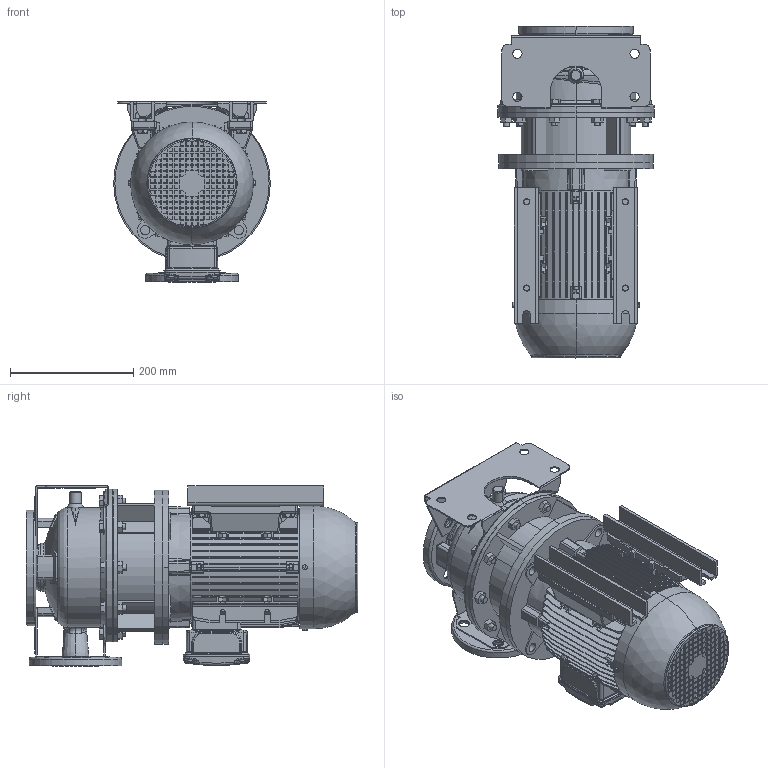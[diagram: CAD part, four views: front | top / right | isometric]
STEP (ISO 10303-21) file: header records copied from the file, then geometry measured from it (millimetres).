
FILE_DESCRIPTION (( 'STEP AP214' ), '1' );
FILE_NAME ('3LS 40-160_3.0_(100L)_W21.STEP', '2026-04-27T02:21:59', ( '' ), ( '' ), 'SwSTEP 2.0', 'SolidWorks 2024', '' );
FILE_SCHEMA (( 'AUTOMOTIVE_DESIGN' ));
Length unit declared in the file: inch
Products named in the file (4): Bolt & Washer M10 x 20.STEP; 40-160_3_ie2_STEP; 100L ALIE3_W21T_B35; 3LS 40-160_3.0_(100L)_W21
Assembly tree (6 placements, depth 2):
  3LS 40-160_3.0_(100L)_W21
    40-160_3_ie2_STEP
    100L ALIE3_W21T_B35
    Bolt & Washer M10 x 20.STEP  x4
Bounding box: 254 x 538.1 x 292 mm (x, y, z)
Volume: 13693493 mm3; surface area: 1481939.7 mm2
Topology: 17 solids, 17 shells, 3437 faces, 8977 edges, 5818 vertices
Faces by surface type: plane 2211, cylinder 735, torus 190, bspline 143, cone 134, sphere 24
Entity records: 149953 total; most frequent: CARTESIAN_POINT 68180, ORIENTED_EDGE 17522, DIRECTION 16011, EDGE_CURVE 8761, VECTOR 5993, LINE 5993, VERTEX_POINT 5692, AXIS2_PLACEMENT_3D 5009
